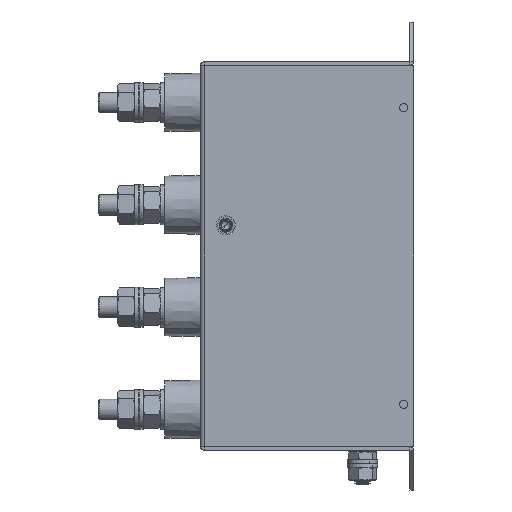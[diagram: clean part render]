
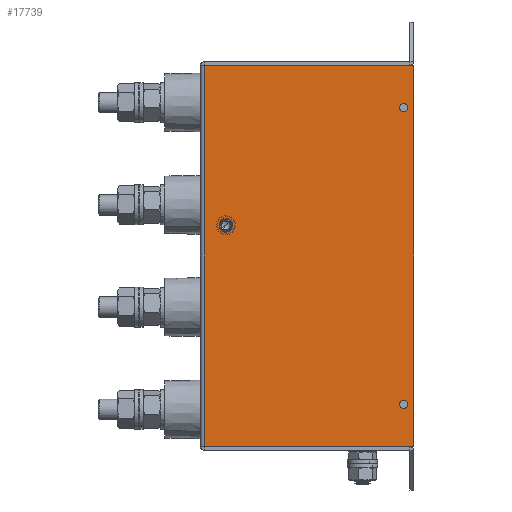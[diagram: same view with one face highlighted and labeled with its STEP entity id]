
A CAD part, left-side view. The second image highlights one B-rep face of the part: STEP entity #17739.
In plain terms, the highlighted planar face has unit normal (-1, 0, 0).
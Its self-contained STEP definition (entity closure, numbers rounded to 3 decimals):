
#576 = VERTEX_POINT ( 'NONE', #3798 ) ;
#633 = CARTESIAN_POINT ( 'NONE',  ( 0., -8.5, -66.5 ) ) ;
#639 = ORIENTED_EDGE ( 'NONE', *, *, #11000, .F. ) ;
#726 = DIRECTION ( 'NONE',  ( 0., -1., 0. ) ) ;
#1089 = EDGE_CURVE ( 'NONE', #12852, #3018, #18562, .T. ) ;
#1728 = VERTEX_POINT ( 'NONE', #21491 ) ;
#1750 = EDGE_CURVE ( 'NONE', #9134, #576, #7459, .T. ) ;
#1905 = EDGE_CURVE ( 'NONE', #13634, #24122, #14647, .T. ) ;
#2511 = VERTEX_POINT ( 'NONE', #22545 ) ;
#3018 = VERTEX_POINT ( 'NONE', #4007 ) ;
#3053 = ORIENTED_EDGE ( 'NONE', *, *, #22019, .F. ) ;
#3168 = AXIS2_PLACEMENT_3D ( 'NONE', #4290, #17680, #6231 ) ;
#3169 = LINE ( 'NONE', #21966, #13356 ) ;
#3170 = CARTESIAN_POINT ( 'NONE',  ( 0., -8.5, -64. ) ) ;
#3798 = CARTESIAN_POINT ( 'NONE',  ( 0., -79.65, -18. ) ) ;
#3921 = CARTESIAN_POINT ( 'NONE',  ( 0., -78., -18. ) ) ;
#4007 = CARTESIAN_POINT ( 'NONE',  ( 0., -0.1, -150.4 ) ) ;
#4269 = ORIENTED_EDGE ( 'NONE', *, *, #19153, .T. ) ;
#4290 = CARTESIAN_POINT ( 'NONE',  ( 0., -78., -134. ) ) ;
#4308 = AXIS2_PLACEMENT_3D ( 'NONE', #3921, #11531, #9593 ) ;
#4454 = DIRECTION ( 'NONE',  ( -1., 0., 0. ) ) ;
#4942 = CIRCLE ( 'NONE', #3168, 1.65 ) ;
#5091 = DIRECTION ( 'NONE',  ( 0., 0., -1. ) ) ;
#5271 = FACE_OUTER_BOUND ( 'NONE', #15688, .T. ) ;
#5297 = CIRCLE ( 'NONE', #17074, 2.5 ) ;
#5335 = AXIS2_PLACEMENT_3D ( 'NONE', #23691, #12224, #726 ) ;
#6231 = DIRECTION ( 'NONE',  ( 0., -1., 0. ) ) ;
#6290 = DIRECTION ( 'NONE',  ( 0., 0., -1. ) ) ;
#6861 = ORIENTED_EDGE ( 'NONE', *, *, #19679, .F. ) ;
#7310 = ORIENTED_EDGE ( 'NONE', *, *, #10627, .T. ) ;
#7379 = CARTESIAN_POINT ( 'NONE',  ( 0., -82., -150.4 ) ) ;
#7445 = DIRECTION ( 'NONE',  ( -1., 0., 0. ) ) ;
#7459 = CIRCLE ( 'NONE', #4308, 1.65 ) ;
#7899 = CIRCLE ( 'NONE', #19169, 2.5 ) ;
#7919 = AXIS2_PLACEMENT_3D ( 'NONE', #9253, #7445, #20833 ) ;
#8370 = VECTOR ( 'NONE', #10659, 1000. ) ;
#8557 = DIRECTION ( 'NONE',  ( 0., 0., -1. ) ) ;
#9120 = EDGE_CURVE ( 'NONE', #24122, #12852, #17318, .T. ) ;
#9134 = VERTEX_POINT ( 'NONE', #23523 ) ;
#9253 = CARTESIAN_POINT ( 'NONE',  ( 0., 0., -150.4 ) ) ;
#9362 = CIRCLE ( 'NONE', #22089, 1.65 ) ;
#9517 = VECTOR ( 'NONE', #20255, 1000. ) ;
#9593 = DIRECTION ( 'NONE',  ( 0., -1., 0. ) ) ;
#9732 = FACE_BOUND ( 'NONE', #14785, .T. ) ;
#9879 = EDGE_CURVE ( 'NONE', #23688, #11011, #5297, .T. ) ;
#10181 = CARTESIAN_POINT ( 'NONE',  ( 0., -8.5, -64. ) ) ;
#10413 = VECTOR ( 'NONE', #6290, 1000. ) ;
#10627 = EDGE_CURVE ( 'NONE', #13634, #3018, #3169, .T. ) ;
#10659 = DIRECTION ( 'NONE',  ( 0., 1., 0. ) ) ;
#11000 = EDGE_CURVE ( 'NONE', #2511, #1728, #4942, .T. ) ;
#11011 = VERTEX_POINT ( 'NONE', #19589 ) ;
#11531 = DIRECTION ( 'NONE',  ( -1., 0., 0. ) ) ;
#12130 = DIRECTION ( 'NONE',  ( 0., 0., -1. ) ) ;
#12224 = DIRECTION ( 'NONE',  ( -1., 0., 0. ) ) ;
#12581 = EDGE_LOOP ( 'NONE', ( #639, #6861 ) ) ;
#12760 = ORIENTED_EDGE ( 'NONE', *, *, #1089, .F. ) ;
#12852 = VERTEX_POINT ( 'NONE', #7379 ) ;
#13356 = VECTOR ( 'NONE', #8557, 1000. ) ;
#13634 = VERTEX_POINT ( 'NONE', #17519 ) ;
#14637 = ORIENTED_EDGE ( 'NONE', *, *, #1905, .F. ) ;
#14647 = LINE ( 'NONE', #24218, #9517 ) ;
#14785 = EDGE_LOOP ( 'NONE', ( #19447, #4269 ) ) ;
#15166 = EDGE_LOOP ( 'NONE', ( #3053, #16980 ) ) ;
#15688 = EDGE_LOOP ( 'NONE', ( #14637, #7310, #12760, #21413 ) ) ;
#15934 = CARTESIAN_POINT ( 'NONE',  ( 0., -78., -134. ) ) ;
#16352 = CARTESIAN_POINT ( 'NONE',  ( 0., 0., -150.4 ) ) ;
#16540 = DIRECTION ( 'NONE',  ( 1., 0., 0. ) ) ;
#16980 = ORIENTED_EDGE ( 'NONE', *, *, #1750, .F. ) ;
#17074 = AXIS2_PLACEMENT_3D ( 'NONE', #3170, #16540, #5091 ) ;
#17318 = LINE ( 'NONE', #19654, #10413 ) ;
#17519 = CARTESIAN_POINT ( 'NONE',  ( 0., -0.1, -1.6 ) ) ;
#17680 = DIRECTION ( 'NONE',  ( -1., 0., 0. ) ) ;
#17739 = ADVANCED_FACE ( 'NONE', ( #24461, #19916, #9732, #5271 ), #18879, .T. ) ;
#17846 = DIRECTION ( 'NONE',  ( 0., -1., 0. ) ) ;
#18562 = LINE ( 'NONE', #16352, #8370 ) ;
#18879 = PLANE ( 'NONE',  #7919 ) ;
#19153 = EDGE_CURVE ( 'NONE', #11011, #23688, #7899, .T. ) ;
#19169 = AXIS2_PLACEMENT_3D ( 'NONE', #10181, #23594, #12130 ) ;
#19447 = ORIENTED_EDGE ( 'NONE', *, *, #9879, .T. ) ;
#19589 = CARTESIAN_POINT ( 'NONE',  ( 0., -8.5, -61.5 ) ) ;
#19654 = CARTESIAN_POINT ( 'NONE',  ( 0., -82., -150.4 ) ) ;
#19679 = EDGE_CURVE ( 'NONE', #1728, #2511, #9362, .T. ) ;
#19916 = FACE_BOUND ( 'NONE', #12581, .T. ) ;
#20255 = DIRECTION ( 'NONE',  ( 0., -1., 0. ) ) ;
#20652 = CIRCLE ( 'NONE', #5335, 1.65 ) ;
#20833 = DIRECTION ( 'NONE',  ( 0., -1., 0. ) ) ;
#21413 = ORIENTED_EDGE ( 'NONE', *, *, #9120, .F. ) ;
#21491 = CARTESIAN_POINT ( 'NONE',  ( 0., -76.35, -134. ) ) ;
#21966 = CARTESIAN_POINT ( 'NONE',  ( 0., -0.1, -150.4 ) ) ;
#22019 = EDGE_CURVE ( 'NONE', #576, #9134, #20652, .T. ) ;
#22089 = AXIS2_PLACEMENT_3D ( 'NONE', #15934, #4454, #17846 ) ;
#22545 = CARTESIAN_POINT ( 'NONE',  ( 0., -79.65, -134. ) ) ;
#23073 = CARTESIAN_POINT ( 'NONE',  ( 0., -82., -1.6 ) ) ;
#23523 = CARTESIAN_POINT ( 'NONE',  ( 0., -76.35, -18. ) ) ;
#23594 = DIRECTION ( 'NONE',  ( 1., 0., 0. ) ) ;
#23688 = VERTEX_POINT ( 'NONE', #633 ) ;
#23691 = CARTESIAN_POINT ( 'NONE',  ( 0., -78., -18. ) ) ;
#24122 = VERTEX_POINT ( 'NONE', #23073 ) ;
#24218 = CARTESIAN_POINT ( 'NONE',  ( 0., -82., -1.6 ) ) ;
#24461 = FACE_BOUND ( 'NONE', #15166, .T. ) ;
